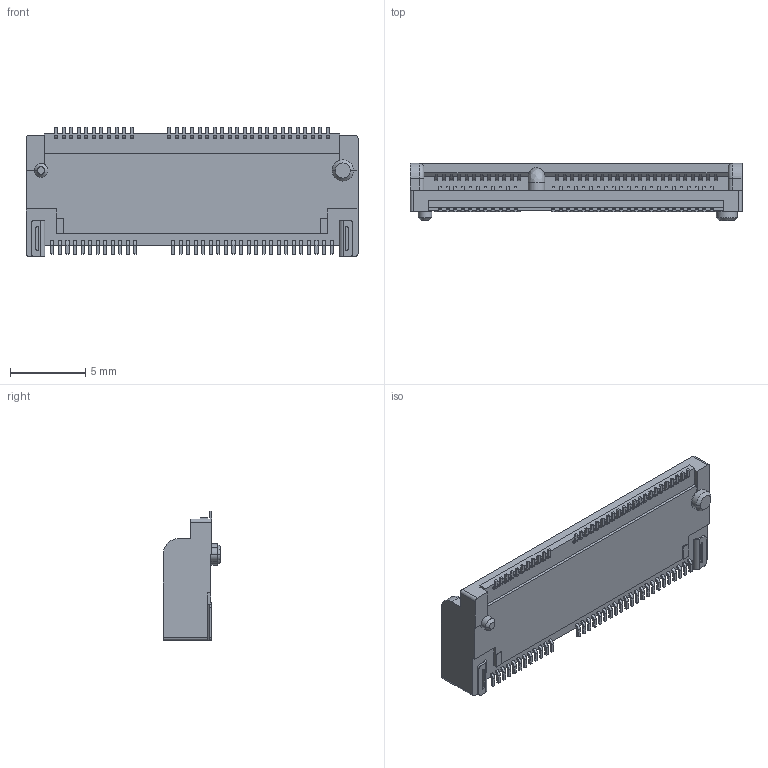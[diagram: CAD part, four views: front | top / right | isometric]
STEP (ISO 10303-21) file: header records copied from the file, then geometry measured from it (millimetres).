
FILE_DESCRIPTION((''),'2;1');
FILE_NAME('MDT320E0X001_C3D','2016-06-02T',('teng.cao'),(''),'PRO/ENGINEER BY PARAMETRIC TECHNOLOGY CORPORATION, 2012230','PRO/ENGINEER BY PARAMETRIC TECHNOLOGY CORPORATION, 2012230','');
FILE_SCHEMA(('CONFIG_CONTROL_DESIGN'));
Length unit declared in the file: millimetre
Products named in the file (1): MDT320E0X001_C3D
Bounding box: 22 x 3.8 x 8.55 mm (x, y, z)
Volume: 383.5 mm3; surface area: 679 mm2
Topology: 1 solids, 1 shells, 1738 faces, 4971 edges, 3316 vertices
Faces by surface type: plane 1234, cylinder 497, cone 4, torus 2, bspline 1
Entity records: 56900 total; most frequent: CARTESIAN_POINT 10557, ORIENTED_EDGE 9942, DIRECTION 9202, EDGE_CURVE 4971, VECTOR 3810, LINE 3810, VERTEX_POINT 3316, AXIS2_PLACEMENT_3D 2696
